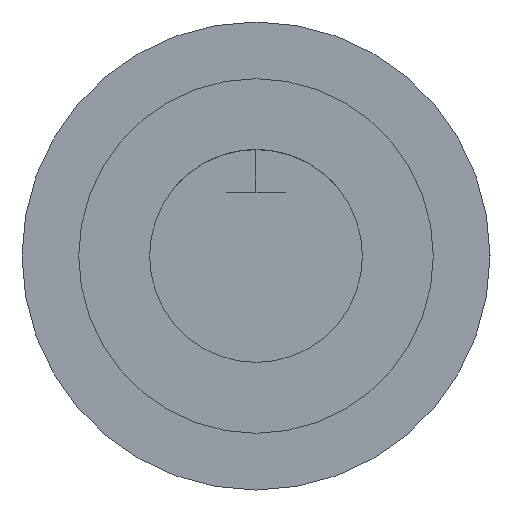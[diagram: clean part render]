
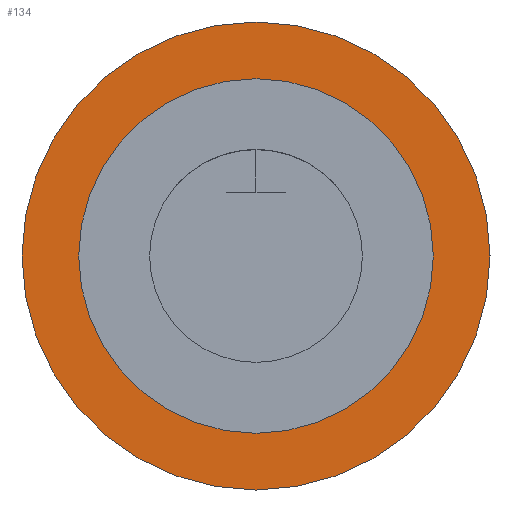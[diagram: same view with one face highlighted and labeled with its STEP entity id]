
A CAD part, left-side view. The second image highlights one B-rep face of the part: STEP entity #134.
In plain terms, the highlighted planar face has unit normal (-1, 0, 0).
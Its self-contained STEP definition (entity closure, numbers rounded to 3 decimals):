
#20 = EDGE_CURVE ( 'NONE', #139, #138, #77, .T. ) ;
#61 = VERTEX_POINT ( 'NONE', #300 ) ;
#62 = VERTEX_POINT ( 'NONE', #299 ) ;
#77 = CIRCLE ( 'NONE', #123, 1.25 ) ;
#107 = EDGE_CURVE ( 'NONE', #61, #62, #250, .T. ) ;
#120 = DIRECTION ( 'NONE',  ( 0., 0., -1. ) ) ;
#121 = DIRECTION ( 'NONE',  ( 1., 0., 0. ) ) ;
#122 = CARTESIAN_POINT ( 'NONE',  ( 32., 0., 0. ) ) ;
#123 = AXIS2_PLACEMENT_3D ( 'NONE', #122, #121, #120 ) ;
#134 = ADVANCED_FACE ( 'NONE', ( #332, #336 ), #335, .F. ) ;
#137 = EDGE_CURVE ( 'NONE', #138, #139, #349, .T. ) ;
#138 = VERTEX_POINT ( 'NONE', #344 ) ;
#139 = VERTEX_POINT ( 'NONE', #343 ) ;
#168 = EDGE_LOOP ( 'NONE', ( #169, #170 ) ) ;
#169 = ORIENTED_EDGE ( 'NONE', *, *, #107, .F. ) ;
#170 = ORIENTED_EDGE ( 'NONE', *, *, #171, .F. ) ;
#171 = EDGE_CURVE ( 'NONE', #62, #61, #504, .T. ) ;
#172 = EDGE_LOOP ( 'NONE', ( #173, #174 ) ) ;
#173 = ORIENTED_EDGE ( 'NONE', *, *, #20, .T. ) ;
#174 = ORIENTED_EDGE ( 'NONE', *, *, #137, .T. ) ;
#247 = DIRECTION ( 'NONE',  ( 0., 0., -1. ) ) ;
#248 = DIRECTION ( 'NONE',  ( 1., 0., 0. ) ) ;
#249 = AXIS2_PLACEMENT_3D ( 'NONE', #256, #248, #247 ) ;
#250 = CIRCLE ( 'NONE', #249, 1.65 ) ;
#256 = CARTESIAN_POINT ( 'NONE',  ( 32., 0., 0. ) ) ;
#278 = CARTESIAN_POINT ( 'NONE',  ( 32., 0., 0. ) ) ;
#299 = CARTESIAN_POINT ( 'NONE',  ( 32., 0., 1.65 ) ) ;
#300 = CARTESIAN_POINT ( 'NONE',  ( 32., 0., -1.65 ) ) ;
#328 = DIRECTION ( 'NONE',  ( 0., 0., -1. ) ) ;
#329 = DIRECTION ( 'NONE',  ( 1., 0., 0. ) ) ;
#332 = FACE_OUTER_BOUND ( 'NONE', #168, .T. ) ;
#333 = AXIS2_PLACEMENT_3D ( 'NONE', #278, #329, #328 ) ;
#335 = PLANE ( 'NONE',  #333 ) ;
#336 = FACE_BOUND ( 'NONE', #172, .T. ) ;
#343 = CARTESIAN_POINT ( 'NONE',  ( 32., 0., 1.25 ) ) ;
#344 = CARTESIAN_POINT ( 'NONE',  ( 32., 0., -1.25 ) ) ;
#345 = DIRECTION ( 'NONE',  ( 0., 0., -1. ) ) ;
#346 = DIRECTION ( 'NONE',  ( 1., 0., 0. ) ) ;
#347 = CARTESIAN_POINT ( 'NONE',  ( 32., 0., 0. ) ) ;
#348 = AXIS2_PLACEMENT_3D ( 'NONE', #347, #346, #345 ) ;
#349 = CIRCLE ( 'NONE', #348, 1.25 ) ;
#500 = DIRECTION ( 'NONE',  ( 0., 0., -1. ) ) ;
#501 = DIRECTION ( 'NONE',  ( 1., 0., 0. ) ) ;
#502 = CARTESIAN_POINT ( 'NONE',  ( 32., 0., 0. ) ) ;
#503 = AXIS2_PLACEMENT_3D ( 'NONE', #502, #501, #500 ) ;
#504 = CIRCLE ( 'NONE', #503, 1.65 ) ;
